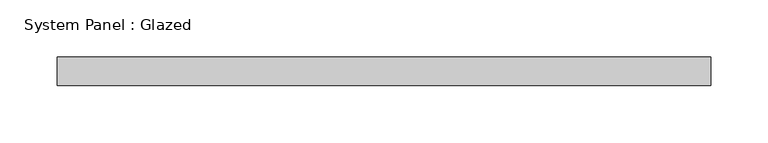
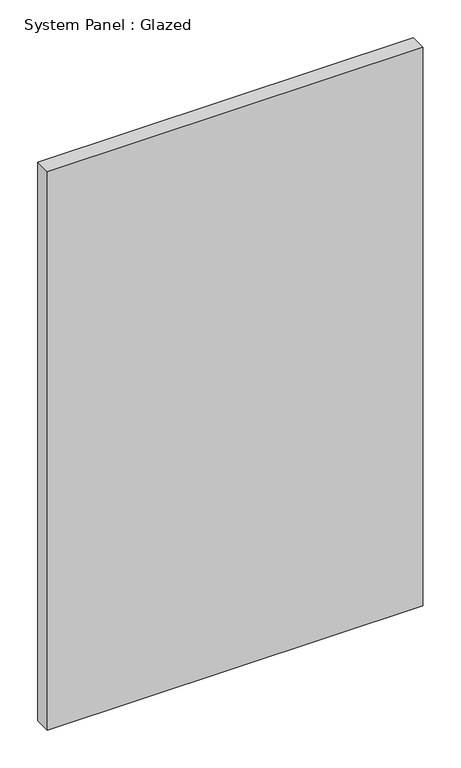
"""IFC4 building model written with IfcOpenShell, lengths in millimetres: plate geometry, System Panel : Glazed."""

from ifc_helpers import new_model, si_unit, origin, origin_with_axes, place, context, project, spatial, polyline, outline, extrude, source, transform, mapped, element, save


def system_panel_glazed_beb321c6(model_context):
    return source(origin(), model_context, "Body", "SweptSolid", [
        extrude(outline(polyline([(285.4675506, -12.5), (-285.4675506, -12.5), (-285.4675506, 12.5), (285.4675506, 12.5), (285.4675506, -12.5)])), origin_with_axes(), (0.0, 0.0, 1.0), 898.3333333),
    ])


if __name__ == "__main__":
    model = new_model("IFC4")
    model_context = context("Model", 3, world=origin())
    ifc_project = project(units=[si_unit("LENGTHUNIT", "METRE", prefix="MILLI")], contexts=[model_context])
    site = spatial("IfcSite", under=ifc_project)
    building = spatial("IfcBuilding", under=site)
    placement = place(None, origin())
    system_panel_glazed_shape = system_panel_glazed_beb321c6(model_context)
    element("IfcPlate", 1, ObjectType="System Panel : Glazed", at=placement, inside=building, context=model_context, shape_type="MappedRepresentation", body=[
        mapped(system_panel_glazed_shape, transform((0.0, 0.0, 0.0), x_axis=(1.0, 0.0, 0.0), y_axis=(0.0, 1.0, 0.0), z_axis=(0.0, 0.0, 1.0))),
    ])
    save(model, "model.ifc")
